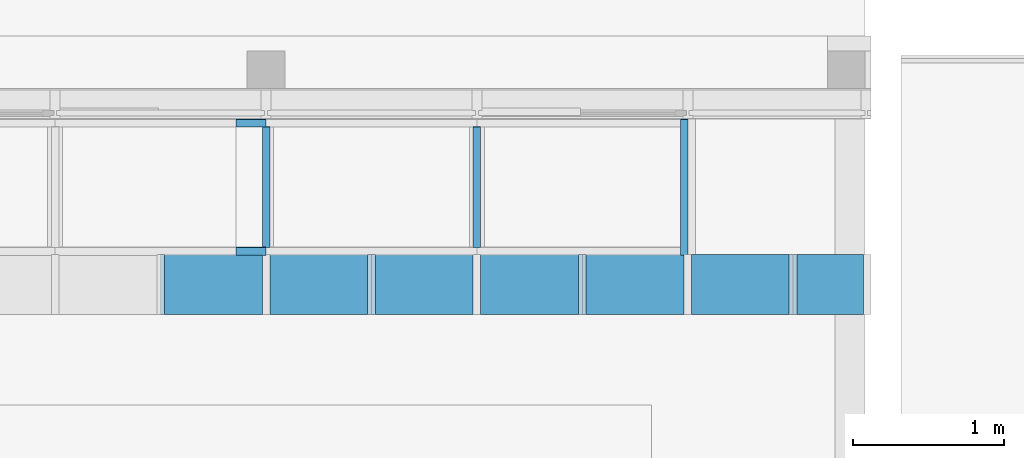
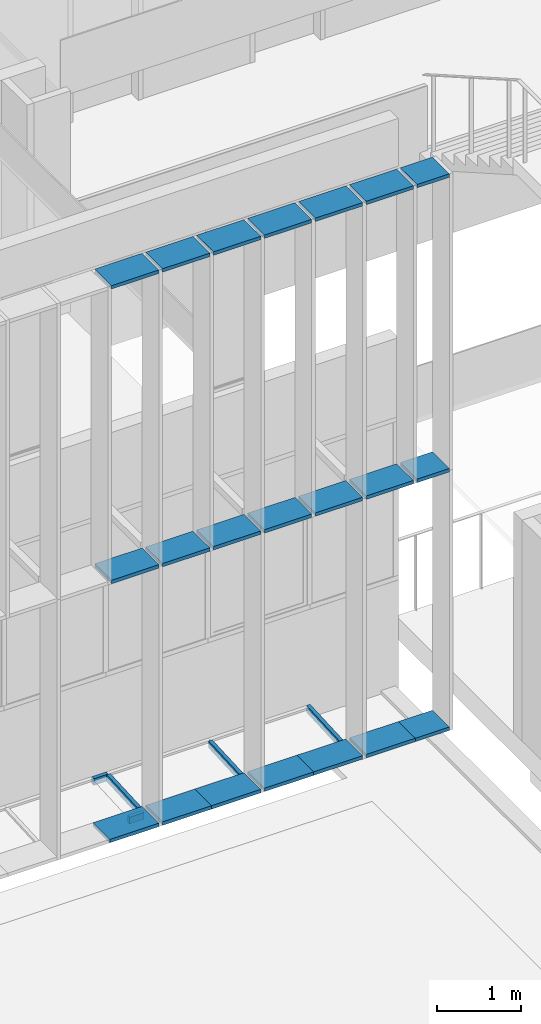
# One storey, part 27 of 106: 26 members, 2 elements without a shape of their own.
"""IFC2X3 building model written with IfcOpenShell, lengths in centimetres."""

from ifc_helpers import new_model, entity, si_unit, converted_unit, derived_unit, direction, frame, origin, origin_2d_with_axis, place, context, subcontext, project, spatial, rectangle, extrude, source, transform, mapped, material, type_object, type_shapes, element, aggregate, save


model = new_model("IFC2X3")

# Units and contexts
model_context = context("Model", 3, precision=0.001, world=origin(), true_north=direction((6.12303176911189e-17, 1.0)))
body_context = subcontext(model_context, "Body", "Model", "MODEL_VIEW")
ifc_project = project(units=[si_unit("LENGTHUNIT", "METRE", prefix="CENTI"), si_unit("AREAUNIT", "SQUARE_METRE"), si_unit("VOLUMEUNIT", "CUBIC_METRE"), converted_unit("PLANEANGLEUNIT", "DEGREE", entity("IfcRatioMeasure", 0.0174532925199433), si_unit("PLANEANGLEUNIT", "RADIAN"), dimensions=[0, 0, 0, 0, 0, 0, 0]), si_unit("MASSUNIT", "GRAM", prefix="KILO"), derived_unit("MASSDENSITYUNIT", [(si_unit("MASSUNIT", "GRAM", prefix="KILO"), 1), (si_unit("LENGTHUNIT", "METRE"), -3)]), si_unit("TIMEUNIT", "SECOND"), si_unit("FREQUENCYUNIT", "HERTZ"), si_unit("THERMODYNAMICTEMPERATUREUNIT", "DEGREE_CELSIUS"), derived_unit("THERMALTRANSMITTANCEUNIT", [(si_unit("MASSUNIT", "GRAM", prefix="KILO"), 1), (si_unit("THERMODYNAMICTEMPERATUREUNIT", "KELVIN"), -1), (si_unit("TIMEUNIT", "SECOND"), -3)]), derived_unit("VOLUMETRICFLOWRATEUNIT", [(si_unit("LENGTHUNIT", "METRE"), 3), (si_unit("TIMEUNIT", "SECOND"), -1)]), si_unit("ELECTRICCURRENTUNIT", "AMPERE"), si_unit("ELECTRICVOLTAGEUNIT", "VOLT"), si_unit("POWERUNIT", "WATT"), si_unit("FORCEUNIT", "NEWTON", prefix="KILO"), si_unit("ILLUMINANCEUNIT", "LUX"), si_unit("LUMINOUSFLUXUNIT", "LUMEN"), si_unit("LUMINOUSINTENSITYUNIT", "CANDELA"), derived_unit("USERDEFINED", [(si_unit("MASSUNIT", "GRAM", prefix="KILO"), -1), (si_unit("LENGTHUNIT", "METRE"), -2), (si_unit("TIMEUNIT", "SECOND"), 3), (si_unit("LUMINOUSFLUXUNIT", "LUMEN"), 1)]), derived_unit("LINEARVELOCITYUNIT", [(si_unit("LENGTHUNIT", "METRE"), 1), (si_unit("TIMEUNIT", "SECOND"), -1)]), si_unit("PRESSUREUNIT", "PASCAL"), derived_unit("USERDEFINED", [(si_unit("LENGTHUNIT", "METRE"), -2), (si_unit("MASSUNIT", "GRAM", prefix="KILO"), 1), (si_unit("TIMEUNIT", "SECOND"), -2)])], contexts=[model_context])

# Site, building, storey
site_placement = place(None, frame((-2781.94577612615, 7442.24238424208, 0.0)))
site = spatial("IfcSite", under=ifc_project, at=site_placement, Name="Default", CompositionType="ELEMENT")
building_placement = place(site_placement, origin())
building = spatial("IfcBuilding", under=site, at=building_placement, CompositionType="ELEMENT")
storey_placement = place(building_placement, frame((0.0, 0.0, 422.0)))
storey = spatial("IfcBuildingStorey", under=building, at=storey_placement, Name="Toiture - Cuisine", CompositionType="ELEMENT", Elevation=421.999999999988)

# Roof, members
curtain_wall_type_1 = type_object("IfcCurtainWallType", Name="Vitres inclinées:Toit en verre 1 m x 2 m", PredefinedType="NOTDEFINED")
roof_placement = place(building_placement, origin())
roof = element("IfcRoof", 1, at=roof_placement, inside=storey, type_object=curtain_wall_type_1, Name="Vitres inclinées:Toit en verre 1 m x 2 m", ObjectType="Vitres inclinées:Toit en verre 1 m x 2 m", ShapeType="NOTDEFINED")
ifc_material_1 = material(Name="Plastique, blanc opaque")
member_type_1 = type_object("IfcMemberType", Name="100 x 50mm", PredefinedType="MEMBER")
shared_shape_1 = source(origin(), body_context, "Body", "SweptSolid", [
    extrude(rectangle(XDim=10.0, YDim=5.0, at=origin_2d_with_axis()), frame((-2.5, 0.0, -90.1235111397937), z_axis=(0.0, 0.0, 1.0), x_axis=(0.0, -1.0, 0.0)), (0.0, 0.0, 1.0), 90.1235111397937),
])
type_shapes(member_type_1, [shared_shape_1])
member_1_placement = place(building_placement, frame((-4909.49987763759, -1950.34071342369, 362.709847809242), z_axis=(0.0, 0.998629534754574, 0.0523359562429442), x_axis=(1.0, 0.0, 0.0)))
member_1 = element("IfcMember", 2, at=member_1_placement, type_object=member_type_1, material=ifc_material_1, Name="Meneau rectangulaire:100 x 50mm", ObjectType="Meneau rectangulaire:100 x 50mm", context=body_context, shape_type="MappedRepresentation", body=[
    mapped(shared_shape_1, transform((0.0, 0.0, 0.0), scale=1.0)),
])
member_type_2 = type_object("IfcMemberType", Name="100 x 50mm", PredefinedType="MEMBER")
shared_shape_2 = source(origin(), body_context, "Body", "SweptSolid", [
    extrude(rectangle(XDim=10.0, YDim=5.0, at=origin_2d_with_axis()), frame((-2.5, 0.0, -20.0), z_axis=(0.0, 0.0, 1.0), x_axis=(0.0, -1.0, 0.0)), (0.0, 0.0, 1.0), 20.0000000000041),
])
type_shapes(member_type_2, [shared_shape_2])
member_2_placement = place(building_placement, frame((-5209.4998776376, -1950.34071342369, 362.709847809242), z_axis=(-1.0, 0.0, 0.0), x_axis=(0.0, 0.998629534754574, 0.0523359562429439)))
member_2 = element("IfcMember", 3, at=member_2_placement, type_object=member_type_2, material=ifc_material_1, Name="Meneau rectangulaire:100 x 50mm", ObjectType="Meneau rectangulaire:100 x 50mm", context=body_context, shape_type="MappedRepresentation", body=[
    mapped(shared_shape_2, transform((0.0, 0.0, 0.0), scale=1.0)),
])
member_type_3 = type_object("IfcMemberType", Name="100 x 50mm", PredefinedType="MEMBER")
shared_shape_3 = source(origin(), body_context, "Body", "SweptSolid", [
    extrude(rectangle(XDim=10.0, YDim=5.0, at=origin_2d_with_axis()), frame((-2.5, 0.0, -20.0), z_axis=(0.0, 0.0, 1.0), x_axis=(0.0, -1.0, 0.0)), (0.0, 0.0, 1.0), 20.000000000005),
])
type_shapes(member_type_3, [shared_shape_3])
member_3_placement = place(building_placement, frame((-5189.49987763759, -2040.34071342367, 357.99314767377), z_axis=(1.0, 0.0, 0.0), x_axis=(0.0, -0.998629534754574, -0.0523359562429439)))
member_3 = element("IfcMember", 4, at=member_3_placement, type_object=member_type_3, material=ifc_material_1, Name="Meneau rectangulaire:100 x 50mm", ObjectType="Meneau rectangulaire:100 x 50mm", context=body_context, shape_type="MappedRepresentation", body=[
    mapped(shared_shape_3, transform((0.0, 0.0, 0.0), scale=1.0)),
])
member_type_4 = type_object("IfcMemberType", Name="100 x 50mm", PredefinedType="MEMBER")
shared_shape_4 = source(origin(), body_context, "Body", "SweptSolid", [
    extrude(rectangle(XDim=10.0, YDim=5.0, at=origin_2d_with_axis()), frame((0.0, 0.0, -80.1235111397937), z_axis=(0.0, 0.0, 1.0), x_axis=(0.0, -1.0, 0.0)), (0.0, 0.0, 1.0), 80.1235111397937),
])
type_shapes(member_type_4, [shared_shape_4])
member_4_placement = place(building_placement, frame((-5189.49987763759, -1955.33386109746, 362.448168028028), z_axis=(0.0, 0.998629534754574, 0.0523359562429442), x_axis=(1.0, 0.0, 0.0)))
member_4 = element("IfcMember", 5, at=member_4_placement, type_object=member_type_4, material=ifc_material_1, Name="Meneau rectangulaire:100 x 50mm", ObjectType="Meneau rectangulaire:100 x 50mm", context=body_context, shape_type="MappedRepresentation", body=[
    mapped(shared_shape_4, transform((0.0, 0.0, 0.0), scale=1.0)),
])
member_5_placement = place(building_placement, frame((-5049.49987763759, -1955.33386109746, 362.448168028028), z_axis=(0.0, 0.998629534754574, 0.0523359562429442), x_axis=(1.0, 0.0, 0.0)))
member_5 = element("IfcMember", 6, at=member_5_placement, type_object=member_type_4, material=ifc_material_1, Name="Meneau rectangulaire:100 x 50mm", ObjectType="Meneau rectangulaire:100 x 50mm", context=body_context, shape_type="MappedRepresentation", body=[
    mapped(shared_shape_4, transform((0.0, 0.0, 0.0), scale=1.0)),
])
aggregate(roof, [member_1, member_2, member_3, member_4, member_5])

# Curtain wall, members
curtain_wall_type_2 = type_object("IfcCurtainWallType", Name="Mur-rideau:Epines - 400x30mm", PredefinedType="NOTDEFINED")
curtain_wall_placement = place(building_placement, origin())
curtain_wall = element("IfcCurtainWall", 7, at=curtain_wall_placement, inside=storey, type_object=curtain_wall_type_2, Name="Mur-rideau:Epines - 400x30mm", ObjectType="Mur-rideau:Epines - 400x30mm")
ifc_material_2 = material(Name="Aluminium")
member_type_5 = type_object("IfcMemberType", Name="Epine sud (400x50 mm)", PredefinedType="MEMBER")
shared_shape_5 = source(origin(), body_context, "Body", "SweptSolid", [
    extrude(rectangle(XDim=40.0, YDim=5.0, at=origin_2d_with_axis()), frame((-2.5, 0.0, -65.0), z_axis=(0.0, 0.0, 1.0), x_axis=(0.0, -1.0, 0.0)), (0.0, 0.0, 1.0), 64.9999999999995),
])
type_shapes(member_type_5, [shared_shape_5])
member_6_placement = place(building_placement, frame((-5191.99987763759, -2060.07903364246, 1176.0), z_axis=(1.0, 0.0, 0.0), x_axis=(0.0, 0.0, 1.0)))
member_6 = element("IfcMember", 8, at=member_6_placement, type_object=member_type_5, material=ifc_material_2, Name="Meneau rectangulaire:Epine sud (400x50 mm)", ObjectType="Meneau rectangulaire:Epine sud (400x50 mm)", context=body_context, shape_type="MappedRepresentation", body=[
    mapped(shared_shape_5, transform((0.0, 0.0, 0.0), scale=1.0)),
])
member_7_placement = place(building_placement, frame((-5051.99987763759, -2060.07903364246, 1176.0), z_axis=(1.0, 0.0, 0.0), x_axis=(0.0, 0.0, 1.0)))
member_7 = element("IfcMember", 9, at=member_7_placement, type_object=member_type_5, material=ifc_material_2, Name="Meneau rectangulaire:Epine sud (400x50 mm)", ObjectType="Meneau rectangulaire:Epine sud (400x50 mm)", context=body_context, shape_type="MappedRepresentation", body=[
    mapped(shared_shape_5, transform((0.0, 0.0, 0.0), scale=1.0)),
])
member_8_placement = place(building_placement, frame((-4911.99987763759, -2060.07903364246, 1176.0), z_axis=(1.0, 0.0, 0.0), x_axis=(0.0, 0.0, 1.0)))
member_8 = element("IfcMember", 10, at=member_8_placement, type_object=member_type_5, material=ifc_material_2, Name="Meneau rectangulaire:Epine sud (400x50 mm)", ObjectType="Meneau rectangulaire:Epine sud (400x50 mm)", context=body_context, shape_type="MappedRepresentation", body=[
    mapped(shared_shape_5, transform((0.0, 0.0, 0.0), scale=1.0)),
])
member_9_placement = place(building_placement, frame((-5121.99987763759, -2060.07903364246, 1176.0), z_axis=(1.0, 0.0, 0.0), x_axis=(0.0, 0.0, 1.0)))
member_9 = element("IfcMember", 11, at=member_9_placement, type_object=member_type_5, material=ifc_material_2, Name="Meneau rectangulaire:Epine sud (400x50 mm)", ObjectType="Meneau rectangulaire:Epine sud (400x50 mm)", context=body_context, shape_type="MappedRepresentation", body=[
    mapped(shared_shape_5, transform((0.0, 0.0, 0.0), scale=1.0)),
])
member_10_placement = place(building_placement, frame((-4981.99987763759, -2060.07903364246, 1176.0), z_axis=(1.0, 0.0, 0.0), x_axis=(0.0, 0.0, 1.0)))
member_10 = element("IfcMember", 12, at=member_10_placement, type_object=member_type_5, material=ifc_material_2, Name="Meneau rectangulaire:Epine sud (400x50 mm)", ObjectType="Meneau rectangulaire:Epine sud (400x50 mm)", context=body_context, shape_type="MappedRepresentation", body=[
    mapped(shared_shape_5, transform((0.0, 0.0, 0.0), scale=1.0)),
])
member_type_6 = type_object("IfcMemberType", Name="Epine sud (400x50 mm)", PredefinedType="MEMBER")
shared_shape_6 = source(origin(), body_context, "Body", "SweptSolid", [
    extrude(rectangle(XDim=40.0, YDim=5.0, at=origin_2d_with_axis()), frame((-2.5, 0.0, -67.4999999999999), z_axis=(0.0, 0.0, 1.0), x_axis=(0.0, -1.0, 0.0)), (0.0, 0.0, 1.0), 67.5000000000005),
])
type_shapes(member_type_6, [shared_shape_6])
member_11_placement = place(building_placement, frame((-5186.99987763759, -2060.07903364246, 367.449291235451), z_axis=(-1.0, 0.0, 0.0), x_axis=(0.0, 0.0, -1.0)))
member_11 = element("IfcMember", 13, at=member_11_placement, type_object=member_type_6, material=ifc_material_2, Name="Meneau rectangulaire:Epine sud (400x50 mm)", ObjectType="Meneau rectangulaire:Epine sud (400x50 mm)", context=body_context, shape_type="MappedRepresentation", body=[
    mapped(shared_shape_6, transform((0.0, 0.0, 0.0), scale=1.0)),
])
member_12_placement = place(building_placement, frame((-5046.99987763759, -2060.07903364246, 367.449291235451), z_axis=(-1.0, 0.0, 0.0), x_axis=(0.0, 0.0, -1.0)))
member_12 = element("IfcMember", 14, at=member_12_placement, type_object=member_type_6, material=ifc_material_2, Name="Meneau rectangulaire:Epine sud (400x50 mm)", ObjectType="Meneau rectangulaire:Epine sud (400x50 mm)", context=body_context, shape_type="MappedRepresentation", body=[
    mapped(shared_shape_6, transform((0.0, 0.0, 0.0), scale=1.0)),
])
member_type_7 = type_object("IfcMemberType", Name="Epine sud (400x50 mm)", PredefinedType="MEMBER")
shared_shape_7 = source(origin(), body_context, "Body", "SweptSolid", [
    extrude(rectangle(XDim=40.0, YDim=5.0, at=origin_2d_with_axis()), frame((0.0, 0.0, -65.0), z_axis=(0.0, 0.0, 1.0), x_axis=(0.0, -1.0, 0.0)), (0.0, 0.0, 1.0), 65.0000000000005),
])
type_shapes(member_type_7, [shared_shape_7])
member_13_placement = place(building_placement, frame((-5121.99987763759, -2060.07903364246, 745.4), z_axis=(1.0, 0.0, 0.0), x_axis=(0.0, 0.0, 1.0)))
member_13 = element("IfcMember", 15, at=member_13_placement, type_object=member_type_7, material=ifc_material_2, Name="Meneau rectangulaire:Epine sud (400x50 mm)", ObjectType="Meneau rectangulaire:Epine sud (400x50 mm)", context=body_context, shape_type="MappedRepresentation", body=[
    mapped(shared_shape_7, transform((0.0, 0.0, 0.0), scale=1.0)),
])
member_14_placement = place(building_placement, frame((-4981.99987763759, -2060.07903364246, 745.4), z_axis=(1.0, 0.0, 0.0), x_axis=(0.0, 0.0, 1.0)))
member_14 = element("IfcMember", 16, at=member_14_placement, type_object=member_type_7, material=ifc_material_2, Name="Meneau rectangulaire:Epine sud (400x50 mm)", ObjectType="Meneau rectangulaire:Epine sud (400x50 mm)", context=body_context, shape_type="MappedRepresentation", body=[
    mapped(shared_shape_7, transform((0.0, 0.0, 0.0), scale=1.0)),
])
member_15_placement = place(building_placement, frame((-5191.99987763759, -2060.07903364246, 745.4), z_axis=(1.0, 0.0, 0.0), x_axis=(0.0, 0.0, 1.0)))
member_15 = element("IfcMember", 17, at=member_15_placement, type_object=member_type_7, material=ifc_material_2, Name="Meneau rectangulaire:Epine sud (400x50 mm)", ObjectType="Meneau rectangulaire:Epine sud (400x50 mm)", context=body_context, shape_type="MappedRepresentation", body=[
    mapped(shared_shape_7, transform((0.0, 0.0, 0.0), scale=1.0)),
])
member_16_placement = place(building_placement, frame((-5051.99987763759, -2060.07903364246, 745.4), z_axis=(1.0, 0.0, 0.0), x_axis=(0.0, 0.0, 1.0)))
member_16 = element("IfcMember", 18, at=member_16_placement, type_object=member_type_7, material=ifc_material_2, Name="Meneau rectangulaire:Epine sud (400x50 mm)", ObjectType="Meneau rectangulaire:Epine sud (400x50 mm)", context=body_context, shape_type="MappedRepresentation", body=[
    mapped(shared_shape_7, transform((0.0, 0.0, 0.0), scale=1.0)),
])
member_17_placement = place(building_placement, frame((-4911.99987763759, -2060.07903364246, 745.4), z_axis=(1.0, 0.0, 0.0), x_axis=(0.0, 0.0, 1.0)))
member_17 = element("IfcMember", 19, at=member_17_placement, type_object=member_type_7, material=ifc_material_2, Name="Meneau rectangulaire:Epine sud (400x50 mm)", ObjectType="Meneau rectangulaire:Epine sud (400x50 mm)", context=body_context, shape_type="MappedRepresentation", body=[
    mapped(shared_shape_7, transform((0.0, 0.0, 0.0), scale=1.0)),
])
member_type_8 = type_object("IfcMemberType", Name="Epine sud (400x50 mm)", PredefinedType="MEMBER")
shared_shape_8 = source(origin(), body_context, "Body", "SweptSolid", [
    extrude(rectangle(XDim=40.0, YDim=5.0, at=origin_2d_with_axis()), frame((-2.5, 0.0, -67.2499973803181), z_axis=(0.0, 0.0, 1.0), x_axis=(0.0, -1.0, 0.0)), (0.0, 0.0, 1.0), 67.2499973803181),
])
type_shapes(member_type_8, [shared_shape_8])
member_18_placement = place(building_placement, frame((-4906.99987763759, -2060.07903364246, 367.449291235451), z_axis=(-1.0, 0.0, 0.0), x_axis=(0.0, 0.0, -1.0)))
member_18 = element("IfcMember", 20, at=member_18_placement, type_object=member_type_8, material=ifc_material_2, Name="Meneau rectangulaire:Epine sud (400x50 mm)", ObjectType="Meneau rectangulaire:Epine sud (400x50 mm)", context=body_context, shape_type="MappedRepresentation", body=[
    mapped(shared_shape_8, transform((0.0, 0.0, 0.0), scale=1.0)),
])
member_type_9 = type_object("IfcMemberType", Name="Epine sud (400x50 mm)", PredefinedType="MEMBER")
shared_shape_9 = source(origin(), body_context, "Body", "SweptSolid", [
    extrude(rectangle(XDim=40.0, YDim=5.0, at=origin_2d_with_axis()), frame((0.0, 0.0, -64.7499973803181), z_axis=(0.0, 0.0, 1.0), x_axis=(0.0, -1.0, 0.0)), (0.0, 0.0, 1.0), 64.7499973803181),
])
type_shapes(member_type_9, [shared_shape_9])
member_19_placement = place(building_placement, frame((-4842.24988025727, -2060.07903364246, 745.4), z_axis=(1.0, 0.0, 0.0), x_axis=(0.0, 0.0, 1.0)))
member_19 = element("IfcMember", 21, at=member_19_placement, type_object=member_type_9, material=ifc_material_2, Name="Meneau rectangulaire:Epine sud (400x50 mm)", ObjectType="Meneau rectangulaire:Epine sud (400x50 mm)", context=body_context, shape_type="MappedRepresentation", body=[
    mapped(shared_shape_9, transform((0.0, 0.0, 0.0), scale=1.0)),
])
member_type_10 = type_object("IfcMemberType", Name="Epine sud (400x50 mm)", PredefinedType="MEMBER")
shared_shape_10 = source(origin(), body_context, "Body", "SweptSolid", [
    extrude(rectangle(XDim=40.0, YDim=5.0, at=origin_2d_with_axis()), frame((-2.5, 0.0, -67.4999999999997), z_axis=(0.0, 0.0, 1.0), x_axis=(0.0, -1.0, 0.0)), (0.0, 0.0, 1.0), 67.4999999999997),
])
type_shapes(member_type_10, [shared_shape_10])
member_20_placement = place(building_placement, frame((-5259.49987763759, -2060.07903364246, 367.449291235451), z_axis=(-1.0, 0.0, 0.0), x_axis=(0.0, 0.0, -1.0)))
member_20 = element("IfcMember", 22, at=member_20_placement, type_object=member_type_10, material=ifc_material_2, Name="Meneau rectangulaire:Epine sud (400x50 mm)", ObjectType="Meneau rectangulaire:Epine sud (400x50 mm)", context=body_context, shape_type="MappedRepresentation", body=[
    mapped(shared_shape_10, transform((0.0, 0.0, 0.0), scale=1.0)),
])
member_21_placement = place(building_placement, frame((-5119.49987763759, -2060.07903364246, 367.449291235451), z_axis=(-1.0, 0.0, 0.0), x_axis=(0.0, 0.0, -1.0)))
member_21 = element("IfcMember", 23, at=member_21_placement, type_object=member_type_10, material=ifc_material_2, Name="Meneau rectangulaire:Epine sud (400x50 mm)", ObjectType="Meneau rectangulaire:Epine sud (400x50 mm)", context=body_context, shape_type="MappedRepresentation", body=[
    mapped(shared_shape_10, transform((0.0, 0.0, 0.0), scale=1.0)),
])
member_22_placement = place(building_placement, frame((-4979.49987763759, -2060.07903364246, 367.449291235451), z_axis=(-1.0, 0.0, 0.0), x_axis=(0.0, 0.0, -1.0)))
member_22 = element("IfcMember", 24, at=member_22_placement, type_object=member_type_10, material=ifc_material_2, Name="Meneau rectangulaire:Epine sud (400x50 mm)", ObjectType="Meneau rectangulaire:Epine sud (400x50 mm)", context=body_context, shape_type="MappedRepresentation", body=[
    mapped(shared_shape_10, transform((0.0, 0.0, 0.0), scale=1.0)),
])
member_type_11 = type_object("IfcMemberType", Name="Epine sud (400x50 mm)", PredefinedType="MEMBER")
shared_shape_11 = source(origin(), body_context, "Body", "SweptSolid", [
    extrude(rectangle(XDim=40.0, YDim=5.0, at=origin_2d_with_axis()), frame((-2.5, 0.0, -64.7499973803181), z_axis=(0.0, 0.0, 1.0), x_axis=(0.0, -1.0, 0.0)), (0.0, 0.0, 1.0), 64.7499973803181),
])
type_shapes(member_type_11, [shared_shape_11])
member_23_placement = place(building_placement, frame((-4842.24988025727, -2060.07903364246, 1176.0), z_axis=(1.0, 0.0, 0.0), x_axis=(0.0, 0.0, 1.0)))
member_23 = element("IfcMember", 25, at=member_23_placement, type_object=member_type_11, material=ifc_material_2, Name="Meneau rectangulaire:Epine sud (400x50 mm)", ObjectType="Meneau rectangulaire:Epine sud (400x50 mm)", context=body_context, shape_type="MappedRepresentation", body=[
    mapped(shared_shape_11, transform((0.0, 0.0, 0.0), scale=1.0)),
])
member_type_12 = type_object("IfcMemberType", Name="Epine sud (400x50 mm)", PredefinedType="MEMBER")
shared_shape_12 = source(origin(), body_context, "Body", "SweptSolid", [
    extrude(rectangle(XDim=40.0, YDim=5.0, at=origin_2d_with_axis()), frame((-2.5, 0.0, -44.2500026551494), z_axis=(0.0, 0.0, 1.0), x_axis=(0.0, -1.0, 0.0)), (0.0, 0.0, 1.0), 44.250002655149),
])
type_shapes(member_type_12, [shared_shape_12])
member_24_placement = place(building_placement, frame((-4792.99987760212, -2060.07903364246, 1176.0), z_axis=(1.0, 0.0, 0.0), x_axis=(0.0, 0.0, 1.0)))
member_24 = element("IfcMember", 26, at=member_24_placement, type_object=member_type_12, material=ifc_material_2, Name="Meneau rectangulaire:Epine sud (400x50 mm)", ObjectType="Meneau rectangulaire:Epine sud (400x50 mm)", context=body_context, shape_type="MappedRepresentation", body=[
    mapped(shared_shape_12, transform((0.0, 0.0, 0.0), scale=1.0)),
])
member_type_13 = type_object("IfcMemberType", Name="Epine sud (400x50 mm)", PredefinedType="MEMBER")
shared_shape_13 = source(origin(), body_context, "Body", "SweptSolid", [
    extrude(rectangle(XDim=40.0, YDim=5.0, at=origin_2d_with_axis()), frame((-2.5, 0.0, -46.7500026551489), z_axis=(0.0, 0.0, 1.0), x_axis=(0.0, -1.0, 0.0)), (0.0, 0.0, 1.0), 46.750002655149),
])
type_shapes(member_type_13, [shared_shape_13])
member_25_placement = place(building_placement, frame((-4839.74988025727, -2060.07903364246, 367.449291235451), z_axis=(-1.0, 0.0, 0.0), x_axis=(0.0, 0.0, -1.0)))
member_25 = element("IfcMember", 27, at=member_25_placement, type_object=member_type_13, material=ifc_material_2, Name="Meneau rectangulaire:Epine sud (400x50 mm)", ObjectType="Meneau rectangulaire:Epine sud (400x50 mm)", context=body_context, shape_type="MappedRepresentation", body=[
    mapped(shared_shape_13, transform((0.0, 0.0, 0.0), scale=1.0)),
])
member_type_14 = type_object("IfcMemberType", Name="Epine sud (400x50 mm)", PredefinedType="MEMBER")
shared_shape_14 = source(origin(), body_context, "Body", "SweptSolid", [
    extrude(rectangle(XDim=40.0, YDim=5.0, at=origin_2d_with_axis()), frame((0.0, 0.0, -44.2500026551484), z_axis=(0.0, 0.0, 1.0), x_axis=(0.0, -1.0, 0.0)), (0.0, 0.0, 1.0), 44.2500026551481),
])
type_shapes(member_type_14, [shared_shape_14])
member_26_placement = place(building_placement, frame((-4792.99987760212, -2060.07903364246, 745.4), z_axis=(1.0, 0.0, 0.0), x_axis=(0.0, 0.0, 1.0)))
member_26 = element("IfcMember", 28, at=member_26_placement, type_object=member_type_14, material=ifc_material_2, Name="Meneau rectangulaire:Epine sud (400x50 mm)", ObjectType="Meneau rectangulaire:Epine sud (400x50 mm)", context=body_context, shape_type="MappedRepresentation", body=[
    mapped(shared_shape_14, transform((0.0, 0.0, 0.0), scale=1.0)),
])
aggregate(curtain_wall, [member_24, member_6, member_11, member_13, member_7, member_12, member_14, member_8, member_18, member_19, member_20, member_15, member_9, member_21, member_16, member_10, member_22, member_17, member_23, member_25, member_26])

save(model, "model.ifc")
